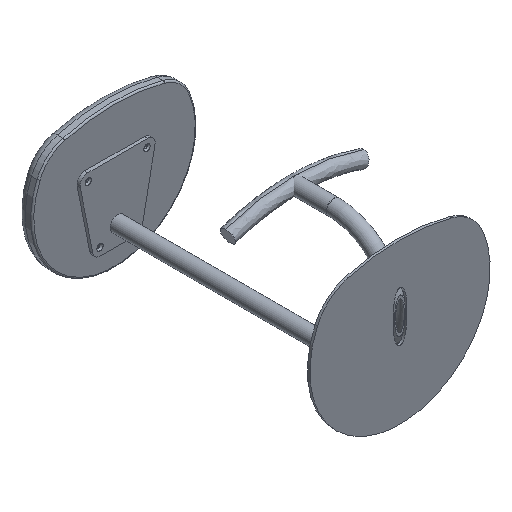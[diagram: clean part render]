
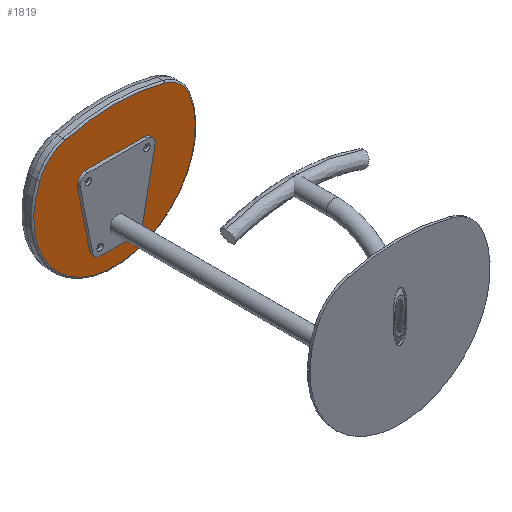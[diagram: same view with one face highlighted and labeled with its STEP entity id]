
A CAD part, isometric view. The second image highlights one B-rep face of the part: STEP entity #1819.
In plain terms, the highlighted planar face has unit normal (0, -1, 0).
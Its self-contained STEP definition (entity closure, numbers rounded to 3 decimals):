
#106=FACE_BOUND('',#489,.T.);
#107=FACE_BOUND('',#490,.T.);
#108=FACE_BOUND('',#491,.T.);
#109=FACE_BOUND('',#492,.T.);
#126=PLANE('',#2149);
#218=CIRCLE('',#2133,206.);
#220=CIRCLE('',#2136,96.);
#223=CIRCLE('',#2140,482.86);
#225=CIRCLE('',#2143,96.);
#229=CIRCLE('',#2150,5.5);
#230=CIRCLE('',#2151,5.5);
#231=CIRCLE('',#2152,5.5);
#232=CIRCLE('',#2153,5.5);
#233=CIRCLE('',#2154,5.5);
#234=CIRCLE('',#2155,5.5);
#235=CIRCLE('',#2156,5.5);
#236=CIRCLE('',#2157,5.5);
#368=FACE_OUTER_BOUND('',#488,.T.);
#488=EDGE_LOOP('',(#1471,#1472,#1473,#1474));
#489=EDGE_LOOP('',(#1475,#1476));
#490=EDGE_LOOP('',(#1477,#1478));
#491=EDGE_LOOP('',(#1479,#1480));
#492=EDGE_LOOP('',(#1481,#1482));
#874=VERTEX_POINT('',#3863);
#877=VERTEX_POINT('',#3868);
#879=VERTEX_POINT('',#3873);
#881=VERTEX_POINT('',#3879);
#885=VERTEX_POINT('',#3897);
#886=VERTEX_POINT('',#3898);
#887=VERTEX_POINT('',#3901);
#888=VERTEX_POINT('',#3902);
#889=VERTEX_POINT('',#3905);
#890=VERTEX_POINT('',#3906);
#891=VERTEX_POINT('',#3909);
#892=VERTEX_POINT('',#3910);
#1086=EDGE_CURVE('',#877,#874,#218,.T.);
#1088=EDGE_CURVE('',#879,#877,#220,.T.);
#1091=EDGE_CURVE('',#881,#879,#223,.T.);
#1093=EDGE_CURVE('',#874,#881,#225,.T.);
#1100=EDGE_CURVE('',#885,#886,#229,.T.);
#1101=EDGE_CURVE('',#886,#885,#230,.T.);
#1102=EDGE_CURVE('',#887,#888,#231,.T.);
#1103=EDGE_CURVE('',#888,#887,#232,.T.);
#1104=EDGE_CURVE('',#889,#890,#233,.T.);
#1105=EDGE_CURVE('',#890,#889,#234,.T.);
#1106=EDGE_CURVE('',#891,#892,#235,.T.);
#1107=EDGE_CURVE('',#892,#891,#236,.T.);
#1471=ORIENTED_EDGE('',*,*,#1086,.F.);
#1472=ORIENTED_EDGE('',*,*,#1088,.F.);
#1473=ORIENTED_EDGE('',*,*,#1091,.F.);
#1474=ORIENTED_EDGE('',*,*,#1093,.F.);
#1475=ORIENTED_EDGE('',*,*,#1100,.T.);
#1476=ORIENTED_EDGE('',*,*,#1101,.T.);
#1477=ORIENTED_EDGE('',*,*,#1102,.T.);
#1478=ORIENTED_EDGE('',*,*,#1103,.T.);
#1479=ORIENTED_EDGE('',*,*,#1104,.T.);
#1480=ORIENTED_EDGE('',*,*,#1105,.T.);
#1481=ORIENTED_EDGE('',*,*,#1106,.T.);
#1482=ORIENTED_EDGE('',*,*,#1107,.T.);
#1819=ADVANCED_FACE('',(#368,#106,#107,#108,#109),#126,.T.);
#2133=AXIS2_PLACEMENT_3D('',#3870,#2518,#2519);
#2136=AXIS2_PLACEMENT_3D('',#3875,#2524,#2525);
#2140=AXIS2_PLACEMENT_3D('',#3881,#2532,#2533);
#2143=AXIS2_PLACEMENT_3D('',#3884,#2538,#2539);
#2149=AXIS2_PLACEMENT_3D('',#3896,#2553,#2554);
#2150=AXIS2_PLACEMENT_3D('',#3899,#2555,#2556);
#2151=AXIS2_PLACEMENT_3D('',#3900,#2557,#2558);
#2152=AXIS2_PLACEMENT_3D('',#3903,#2559,#2560);
#2153=AXIS2_PLACEMENT_3D('',#3904,#2561,#2562);
#2154=AXIS2_PLACEMENT_3D('',#3907,#2563,#2564);
#2155=AXIS2_PLACEMENT_3D('',#3908,#2565,#2566);
#2156=AXIS2_PLACEMENT_3D('',#3911,#2567,#2568);
#2157=AXIS2_PLACEMENT_3D('',#3912,#2569,#2570);
#2518=DIRECTION('center_axis',(0.,1.,0.));
#2519=DIRECTION('ref_axis',(0.,0.,-1.));
#2524=DIRECTION('center_axis',(0.,1.,0.));
#2525=DIRECTION('ref_axis',(0.659,0.,0.752));
#2532=DIRECTION('center_axis',(0.,1.,0.));
#2533=DIRECTION('ref_axis',(0.,0.,1.));
#2538=DIRECTION('center_axis',(0.,1.,0.));
#2539=DIRECTION('ref_axis',(-0.659,0.,0.752));
#2553=DIRECTION('center_axis',(0.,-1.,0.));
#2554=DIRECTION('ref_axis',(0.,0.,-1.));
#2555=DIRECTION('center_axis',(0.,1.,0.));
#2556=DIRECTION('ref_axis',(1.,0.,0.));
#2557=DIRECTION('center_axis',(0.,1.,0.));
#2558=DIRECTION('ref_axis',(1.,0.,0.));
#2559=DIRECTION('center_axis',(0.,1.,0.));
#2560=DIRECTION('ref_axis',(1.,0.,0.));
#2561=DIRECTION('center_axis',(0.,1.,0.));
#2562=DIRECTION('ref_axis',(1.,0.,0.));
#2563=DIRECTION('center_axis',(0.,1.,0.));
#2564=DIRECTION('ref_axis',(1.,0.,0.));
#2565=DIRECTION('center_axis',(0.,1.,0.));
#2566=DIRECTION('ref_axis',(1.,0.,0.));
#2567=DIRECTION('center_axis',(0.,1.,0.));
#2568=DIRECTION('ref_axis',(1.,0.,0.));
#2569=DIRECTION('center_axis',(0.,1.,0.));
#2570=DIRECTION('ref_axis',(1.,0.,0.));
#3863=CARTESIAN_POINT('',(-189.963,612.,-50.312));
#3868=CARTESIAN_POINT('',(189.963,612.,-50.312));
#3870=CARTESIAN_POINT('Origin',(0.,612.,-130.));
#3873=CARTESIAN_POINT('',(126.608,612.,5.193));
#3875=CARTESIAN_POINT('Origin',(101.436,612.,-87.448));
#3879=CARTESIAN_POINT('',(-126.608,612.,5.193));
#3881=CARTESIAN_POINT('Origin',(0.,612.,-460.773));
#3884=CARTESIAN_POINT('Origin',(-101.436,612.,-87.448));
#3896=CARTESIAN_POINT('Origin',(0.,612.,-147.017));
#3897=CARTESIAN_POINT('',(-69.5,612.,-107.172));
#3898=CARTESIAN_POINT('',(-80.5,612.,-107.172));
#3899=CARTESIAN_POINT('Origin',(-75.,612.,-107.172));
#3900=CARTESIAN_POINT('Origin',(-75.,612.,-107.172));
#3901=CARTESIAN_POINT('',(50.5,612.,-267.172));
#3902=CARTESIAN_POINT('',(39.5,612.,-267.172));
#3903=CARTESIAN_POINT('Origin',(45.,612.,-267.172));
#3904=CARTESIAN_POINT('Origin',(45.,612.,-267.172));
#3905=CARTESIAN_POINT('',(80.5,612.,-107.172));
#3906=CARTESIAN_POINT('',(69.5,612.,-107.172));
#3907=CARTESIAN_POINT('Origin',(75.,612.,-107.172));
#3908=CARTESIAN_POINT('Origin',(75.,612.,-107.172));
#3909=CARTESIAN_POINT('',(-39.5,612.,-267.172));
#3910=CARTESIAN_POINT('',(-50.5,612.,-267.172));
#3911=CARTESIAN_POINT('Origin',(-45.,612.,-267.172));
#3912=CARTESIAN_POINT('Origin',(-45.,612.,-267.172));
